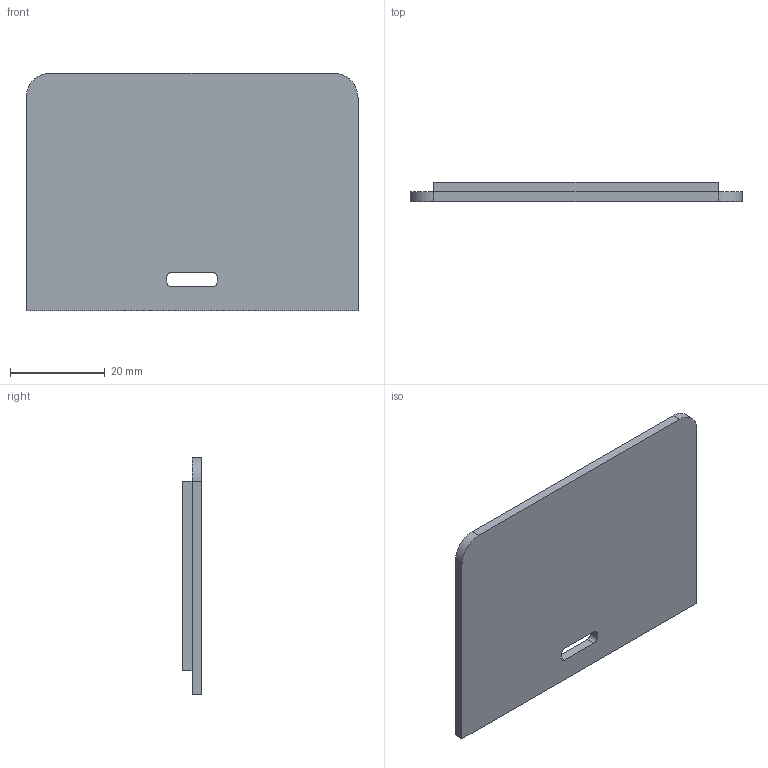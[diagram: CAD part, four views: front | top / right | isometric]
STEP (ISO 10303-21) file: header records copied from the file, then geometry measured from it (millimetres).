
FILE_DESCRIPTION(('STEP AP242 Edition 2','STEP AP242 Edition 2''CAx-IF Rec.Pracs.---Representation and Presentation of Product Manufacturing Information (PMI)---4.0---2014-10-13','STEP AP242 Edition 2''CAx-IF Rec.Pracs.---Representation and Presentation of Product Manufacturing Information (PMI)---4.0---2014-10-13''CAx-IF Rec.Pracs.---3D Tessellated Geometry---0.4---2014-09-14','STEP AP242 Edition 2''CAx-IF Rec.Pracs.---Representation and Presentation of Product Manufacturing Information (PMI)---4.0---2014-10-13''CAx-IF Rec.Pracs.---3D Tessellated Geometry---0.4---2014-09-14''2;1','STEP AP242 Edition 2''CAx-IF Rec.Pracs.---Representation and Presentation of Product Manufacturing Information (PMI)---4.0---2014-10-13''CAx-IF Rec.Pracs.---3D Tessellated Geometry---0.4---2014-09-14''2;1''CAx-IF Rec.Pracs.---User Defined Attributes---1.5---2016-08-15'),'2;1');
FILE_NAME('/vol/tmp/translate-8990021240160502193/Part Studio 1 - Part 2.step','2026-03-12T02:17:56',(''),(''),'ST-DEVELOPER v20','ONSHAPE BY PTC INC, 1.211',' ');
FILE_SCHEMA(('AP242_MANAGED_MODEL_BASED_3D_ENGINEERING_MIM_LF { 1 0 10303 442 3 1 4 }'));
Length unit declared in the file: metre
Products named in the file (1): Part 2
Bounding box: 70 x 4 x 50 mm (x, y, z)
Volume: 7460.3 mm3; surface area: 7990.9 mm2
Topology: 1 solids, 1 shells, 25 faces, 66 edges, 44 vertices
Faces by surface type: plane 19, cylinder 6
Entity records: 798 total; most frequent: CARTESIAN_POINT 136, ORIENTED_EDGE 132, DIRECTION 130, EDGE_CURVE 66, LINE 54, VECTOR 54, VERTEX_POINT 44, AXIS2_PLACEMENT_3D 38
